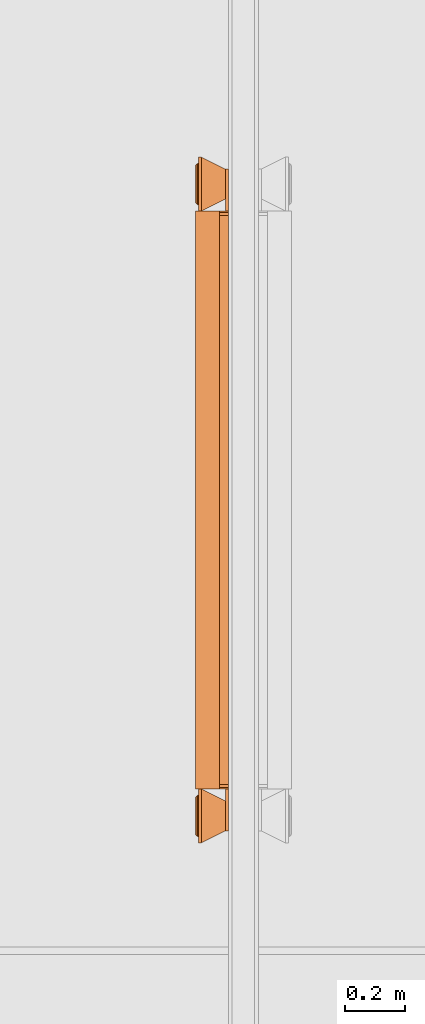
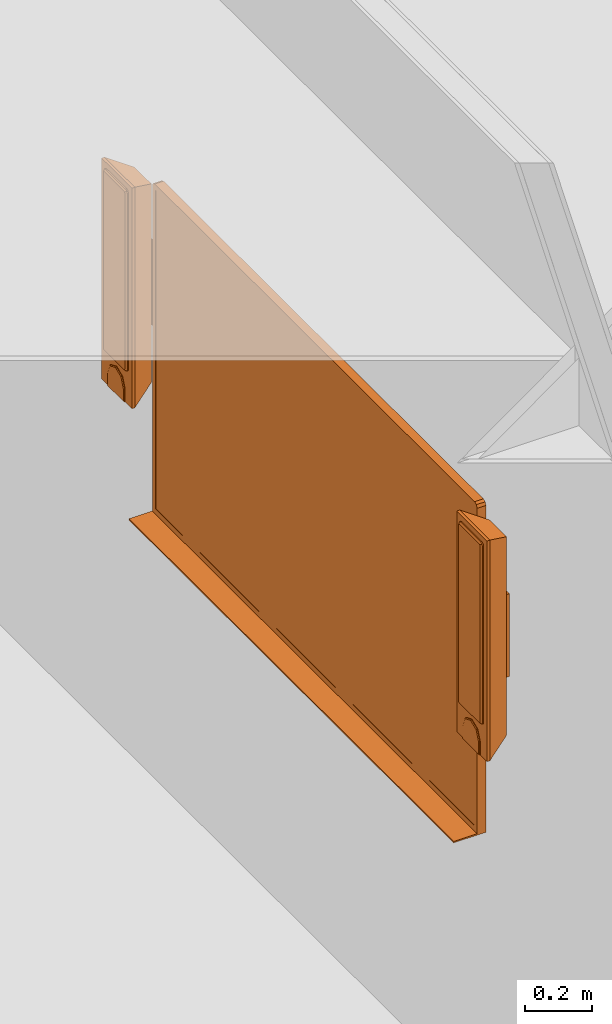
# One storey, part 105 of 167: 1 proxy.
"""IFC2X3 building model written with IfcOpenShell, lengths in millimetres."""

from ifc_helpers import new_model, entity, si_unit, converted_unit, derived_unit, money_unit, direction, frame, origin_with_axes, place, context, subcontext, project, spatial, faceted_brep, source, transform, mapped, type_object, type_shapes, element, save


model = new_model("IFC2X3")

# Units and contexts
model_context = context("Model", 3, precision=0.01, world=origin_with_axes(), true_north=direction((0.0, 1.0)))
plan_context = context("Plan", 3, precision=0.01, world=origin_with_axes(), true_north=direction((0.0, 1.0)))
body_context = subcontext(model_context, "Body", "Model", "MODEL_VIEW")
ifc_project = project(units=[si_unit("LENGTHUNIT", "METRE", prefix="MILLI"), si_unit("AREAUNIT", "SQUARE_METRE"), si_unit("VOLUMEUNIT", "CUBIC_METRE"), converted_unit("PLANEANGLEUNIT", "DEGREE", entity("IfcPlaneAngleMeasure", 0.0174532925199), si_unit("PLANEANGLEUNIT", "RADIAN"), dimensions=[0, 0, 0, 0, 0, 0, 0]), si_unit("SOLIDANGLEUNIT", "STERADIAN"), money_unit("EUR"), converted_unit("TIMEUNIT", "Year", entity("IfcTimeMeasure", 31556926.0), si_unit("TIMEUNIT", "SECOND"), dimensions=[0, 0, 1, 0, 0, 0, 0]), si_unit("MASSUNIT", "GRAM", prefix="KILO"), si_unit("THERMODYNAMICTEMPERATUREUNIT", "DEGREE_CELSIUS"), si_unit("LUMINOUSINTENSITYUNIT", "LUMEN"), si_unit("ENERGYUNIT", "JOULE", prefix="MEGA"), derived_unit("THERMALCONDUCTANCEUNIT", [(si_unit("POWERUNIT", "WATT"), 1), (si_unit("LENGTHUNIT", "METRE"), -1), (si_unit("THERMODYNAMICTEMPERATUREUNIT", "KELVIN"), -1)]), derived_unit("SPECIFICHEATCAPACITYUNIT", [(si_unit("ENERGYUNIT", "JOULE"), 1), (si_unit("MASSUNIT", "GRAM", prefix="KILO"), -1), (si_unit("THERMODYNAMICTEMPERATUREUNIT", "KELVIN"), -1)]), derived_unit("MASSDENSITYUNIT", [(si_unit("MASSUNIT", "GRAM", prefix="KILO"), 1), (si_unit("VOLUMEUNIT", "CUBIC_METRE"), -1)])], contexts=[model_context, plan_context])

# Site, building, storey
site_placement = place(None, origin_with_axes())
site = spatial("IfcSite", under=ifc_project, at=site_placement, Name="Site", CompositionType="ELEMENT")
building_placement = place(site_placement, origin_with_axes())
building = spatial("IfcBuilding", under=site, at=building_placement, Name="Naam gebouw", CompositionType="ELEMENT")
storey_placement = place(building_placement, origin_with_axes())
storey = spatial("IfcBuildingStorey", under=building, at=storey_placement, Name="Begane grond", CompositionType="ELEMENT", Elevation=0.0)

# Proxy
building_element_proxy_type = type_object("IfcBuildingElementProxyType", Name="Digitaal bord 24", PredefinedType="NOTDEFINED")
shared_shape = source(origin_with_axes(), body_context, "Body", "Brep", [
    faceted_brep([(0.0, 0.0, 1000.0), (0.0, -30.0, 1000.0), (-1930.0, -30.0, 1000.0), (-1930.0, 0.0, 1000.0), (0.0, 0.0, 2185.0), (0.0, -30.0, 2185.0), (-4.3933982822, -30.0, 2195.60660172), (-15.0, -30.0, 2200.0), (-1915.0, -30.0, 2200.0), (-1925.60660172, -30.0, 2195.60660172), (-1930.0, -30.0, 2185.0), (-20.0, -30.0, 1025.0), (-1910.0, -30.0, 1025.0), (-1910.0, -30.0, 2180.0), (-20.0, -30.0, 2180.0), (-1930.0, 0.0, 2185.0), (-1925.60660172, 0.0, 2195.60660172), (-1915.0, 0.0, 2200.0), (-15.0, 0.0, 2200.0), (-4.3933982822, 0.0, 2195.60660172), (-20.0, 0.0, 1025.0), (-20.0, 0.0, 2180.0), (-1910.0, 0.0, 2180.0), (-1910.0, 0.0, 1025.0)], [[[0, 1, 2, 3]], [[4, 5, 1, 0]], [[1, 5, 6, 7, 8, 9, 10, 2], [11, 12, 13, 14]], [[3, 2, 10, 15]], [[0, 3, 15, 16, 17, 18, 19, 4], [20, 21, 22, 23]], [[19, 6, 5, 4]], [[18, 7, 6, 19]], [[17, 8, 7, 18]], [[16, 9, 8, 17]], [[15, 10, 9, 16]], [[23, 12, 11, 20]], [[22, 13, 12, 23]], [[21, 14, 13, 22]], [[20, 11, 14, 21]]]),
    faceted_brep([(-20.0, 0.0, 1025.0), (-20.0, -29.0, 1025.0), (-1910.0, -29.0, 1025.0), (-1910.0, 0.0, 1025.0), (-20.0, 0.0, 2180.0), (-20.0, -29.0, 2180.0), (-1910.0, -29.0, 2180.0), (-1910.0, 0.0, 2180.0)], [[[0, 1, 2, 3]], [[4, 5, 1, 0]], [[1, 5, 6, 2]], [[3, 2, 6, 7]], [[0, 3, 7, 4]], [[7, 6, 5, 4]]]),
    faceted_brep([(-1930.0, -110.0, 1000.0), (-1930.0, -30.0, 1000.0), (0.0, -30.0, 1000.0), (0.0, -110.0, 1000.0), (-1930.0, -110.0, 1005.0), (-1930.0, -30.0, 1005.0), (0.0, -30.0, 1005.0), (0.0, -110.0, 1005.0)], [[[0, 1, 2, 3]], [[0, 4, 5, 1]], [[1, 5, 6, 2]], [[2, 6, 7, 3]], [[3, 7, 4, 0]], [[7, 6, 5, 4]]]),
    faceted_brep([(0.0, -10.0, 1650.0), (0.0, 0.0, 1650.0), (140.0, 0.0, 1650.0), (140.0, -10.0, 1650.0), (0.0, -10.0, 1950.0), (0.0, 0.0, 1950.0), (140.0, 0.0, 1950.0), (140.0, -10.0, 1950.0)], [[[0, 1, 2, 3]], [[0, 4, 5, 1]], [[1, 5, 6, 2]], [[2, 6, 7, 3]], [[3, 7, 4, 0]], [[7, 6, 5, 4]]]),
    faceted_brep([(0.0, -100.0, 2200.0), (0.0, -100.0, 1400.0), (180.0, -100.0, 1400.0), (180.0, -100.0, 2200.0), (-2.43782993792e-07, -90.0, 2200.00000039), (-2.43782993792e-07, -90.0, 1399.99999964), (180.00000039, -90.0, 1399.99999964), (180.00000039, -90.0, 2200.00000039), (39.9999997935, -9.99999992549, 2160.00000035), (39.9999997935, -9.99999992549, 1439.99999968), (140.000000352, -9.99999992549, 1439.99999968), (140.000000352, -9.99999992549, 2160.00000035)], [[[0, 1, 2, 3]], [[0, 4, 5, 1]], [[1, 5, 6, 2]], [[2, 6, 7, 3]], [[3, 7, 4, 0]], [[4, 8, 9, 5]], [[5, 9, 10, 6]], [[6, 10, 11, 7]], [[7, 11, 8, 4]], [[10, 9, 8, 11]]]),
    faceted_brep([(157.071067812, -100.0, 1522.92893219), (150.0, -100.0, 1520.0), (30.0, -100.0, 1520.0), (22.9289321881, -100.0, 1522.92893219), (20.0, -100.0, 1530.0), (20.0, -100.0, 2170.0), (22.9289321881, -100.0, 2177.07106781), (30.0, -100.0, 2180.0), (150.0, -100.0, 2180.0), (157.071067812, -100.0, 2177.07106781), (160.0, -100.0, 2170.0), (160.0, -100.0, 1530.0), (156.488467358, -103.826834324, 1523.51153264), (149.848586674, -103.826834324, 1520.76120427), (30.1514125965, -103.826834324, 1520.76120427), (23.5115328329, -103.826834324, 1523.51153262), (20.761204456, -103.826834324, 1530.15141333), (20.761204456, -103.826834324, 2169.84858696), (23.5115328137, -103.826834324, 2176.48846674), (30.1514125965, -103.826834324, 2179.2387951), (149.848586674, -103.826834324, 2179.2387951), (156.488467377, -103.826834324, 2176.48846672), (159.238795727, -103.826834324, 2169.84858696), (159.238795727, -103.826834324, 1530.15141333), (152.346331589, -109.238795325, 1527.65366841), (148.772080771, -109.238795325, 1526.17316539), (31.2279186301, -109.238795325, 1526.17316539), (27.6536686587, -109.238795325, 1527.65366826), (26.1731655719, -109.238795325, 1531.22791923), (26.1731655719, -109.238795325, 2168.77208092), (27.6536685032, -109.238795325, 2172.34633105), (31.2279186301, -109.238795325, 2173.82683398), (148.772080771, -109.238795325, 2173.82683398), (152.346331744, -109.238795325, 2172.34633089), (153.826834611, -109.238795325, 2168.77208092), (153.826834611, -109.238795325, 1531.22791923), (149.41740042, -109.999999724, 1530.58259958), (148.010876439, -109.999999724, 1529.99999833), (31.9891230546, -109.999999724, 1529.99999833), (30.5825998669, -109.999999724, 1530.58259933), (29.9999985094, -109.999999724, 1531.98912356), (29.9999985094, -109.999999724, 2168.0108765), (30.5825996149, -109.999999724, 2169.41739994), (31.9891230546, -109.999999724, 2170.00000104), (148.010876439, -109.999999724, 2170.00000104), (149.417400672, -109.999999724, 2169.41739969), (150.000001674, -109.999999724, 2168.0108765), (150.000001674, -109.999999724, 1531.98912356)], [[[0, 1, 2, 3, 4, 5, 6, 7, 8, 9, 10, 11]], [[0, 12, 13, 1]], [[1, 13, 14, 2]], [[2, 14, 15, 3]], [[3, 15, 16, 4]], [[4, 16, 17, 5]], [[5, 17, 18, 6]], [[6, 18, 19, 7]], [[7, 19, 20, 8]], [[8, 20, 21, 9]], [[9, 21, 22, 10]], [[10, 22, 23, 11]], [[11, 23, 12, 0]], [[12, 24, 25, 13]], [[13, 25, 26, 14]], [[14, 26, 27, 15]], [[15, 27, 28, 16]], [[16, 28, 29, 17]], [[17, 29, 30, 18]], [[18, 30, 31, 19]], [[19, 31, 32, 20]], [[20, 32, 33, 21]], [[21, 33, 34, 22]], [[22, 34, 35, 23]], [[23, 35, 24, 12]], [[24, 36, 37, 25]], [[25, 37, 38, 26]], [[26, 38, 39, 27]], [[27, 39, 40, 28]], [[28, 40, 41, 29]], [[29, 41, 42, 30]], [[30, 42, 43, 31]], [[31, 43, 44, 32]], [[32, 44, 45, 33]], [[33, 45, 46, 34]], [[34, 46, 47, 35]], [[35, 47, 36, 24]], [[45, 44, 43, 42, 41, 40, 39, 38, 37, 36, 47, 46]]]),
    faceted_brep([(40.0, -100.0, 1400.0), (40.0, -100.0, 1450.0), (54.6446609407, -100.0, 1485.35533906), (90.0, -100.0, 1500.0), (125.355339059, -100.0, 1485.35533906), (140.0, -100.0, 1450.0), (140.0, -100.0, 1400.0), (40.380602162, -101.913417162, 1400.38060194), (40.380602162, -101.913417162, 1449.92429384), (54.9359612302, -101.913417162, 1485.06403877), (89.9999996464, -101.913417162, 1499.58803917), (125.064038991, -101.913417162, 1485.06403877), (139.619398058, -101.913417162, 1449.92429384), (139.619398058, -101.913417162, 1400.38060194), (43.0865822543, -104.619397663, 1403.08658203), (43.0865822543, -104.619397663, 1449.38604093), (57.0070287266, -104.619397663, 1482.99297127), (89.99999966, -104.619397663, 1496.65910743), (122.9929715, -104.619397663, 1482.99297126), (136.913417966, -104.619397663, 1449.38604093), (136.913417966, -104.619397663, 1403.08658203), (45.0000010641, -105.000000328, 1405.00000084), (45.0000010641, -105.000000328, 1449.00543826), (58.4714960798, -105.000000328, 1481.52850392), (89.9999996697, -105.000000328, 1494.58803784), (121.528504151, -105.000000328, 1481.52850389), (134.999999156, -105.000000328, 1449.00543826), (134.999999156, -105.000000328, 1405.00000084)], [[[0, 1, 2, 3, 4, 5, 6]], [[0, 7, 8, 1]], [[1, 8, 9, 2]], [[2, 9, 10, 3]], [[3, 10, 11, 4]], [[4, 11, 12, 5]], [[5, 12, 13, 6]], [[6, 13, 7, 0]], [[7, 14, 15, 8]], [[8, 15, 16, 9]], [[9, 16, 17, 10]], [[10, 17, 18, 11]], [[11, 18, 19, 12]], [[12, 19, 20, 13]], [[13, 20, 14, 7]], [[14, 21, 22, 15]], [[15, 22, 23, 16]], [[16, 23, 24, 17]], [[17, 24, 25, 18]], [[18, 25, 26, 19]], [[19, 26, 27, 20]], [[20, 27, 21, 14]], [[25, 24, 23, 22, 21, 27, 26]]]),
    faceted_brep([(-1930.0, -10.0, 1650.0), (-2070.0, -10.0, 1650.0), (-2070.0, 0.0, 1650.0), (-1930.0, 0.0, 1650.0), (-1930.0, -10.0, 1950.0), (-2070.0, -10.0, 1950.0), (-2070.0, 0.0, 1950.0), (-1930.0, 0.0, 1950.0)], [[[0, 1, 2, 3]], [[1, 0, 4, 5]], [[2, 1, 5, 6]], [[3, 2, 6, 7]], [[0, 3, 7, 4]], [[5, 4, 7, 6]]]),
    faceted_brep([(-1930.0, -100.0, 2200.0), (-2110.0, -100.0, 2200.0), (-2110.0, -100.0, 1400.0), (-1930.0, -100.0, 1400.0), (-1929.99999976, -90.0, 2200.00000039), (-2110.00000039, -90.0, 2200.00000039), (-2110.00000039, -90.0, 1399.99999964), (-1929.99999976, -90.0, 1399.99999964), (-1969.99999979, -9.99999992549, 2160.00000035), (-2070.00000035, -9.99999992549, 2160.00000035), (-2070.00000035, -9.99999992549, 1439.99999968), (-1969.99999979, -9.99999992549, 1439.99999968)], [[[0, 1, 2, 3]], [[1, 0, 4, 5]], [[2, 1, 5, 6]], [[3, 2, 6, 7]], [[0, 3, 7, 4]], [[5, 4, 8, 9]], [[6, 5, 9, 10]], [[7, 6, 10, 11]], [[4, 7, 11, 8]], [[10, 9, 8, 11]]]),
    faceted_brep([(-2087.07106781, -100.0, 1522.92893219), (-2090.0, -100.0, 1530.0), (-2090.0, -100.0, 2170.0), (-2087.07106781, -100.0, 2177.07106781), (-2080.0, -100.0, 2180.0), (-1960.0, -100.0, 2180.0), (-1952.92893219, -100.0, 2177.07106781), (-1950.0, -100.0, 2170.0), (-1950.0, -100.0, 1530.0), (-1952.92893219, -100.0, 1522.92893219), (-1960.0, -100.0, 1520.0), (-2080.0, -100.0, 1520.0), (-2086.48846736, -103.826834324, 1523.51153264), (-2089.23879573, -103.826834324, 1530.15141333), (-2089.23879573, -103.826834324, 2169.84858696), (-2086.48846738, -103.826834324, 2176.48846672), (-2079.84858667, -103.826834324, 2179.2387951), (-1960.1514126, -103.826834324, 2179.2387951), (-1953.51153281, -103.826834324, 2176.48846674), (-1950.76120446, -103.826834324, 2169.84858696), (-1950.76120446, -103.826834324, 1530.15141333), (-1953.51153283, -103.826834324, 1523.51153262), (-1960.1514126, -103.826834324, 1520.76120427), (-2079.84858667, -103.826834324, 1520.76120427), (-2082.34633159, -109.238795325, 1527.65366841), (-2083.82683461, -109.238795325, 1531.22791923), (-2083.82683461, -109.238795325, 2168.77208092), (-2082.34633174, -109.238795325, 2172.34633089), (-2078.77208077, -109.238795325, 2173.82683398), (-1961.22791863, -109.238795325, 2173.82683398), (-1957.6536685, -109.238795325, 2172.34633105), (-1956.17316557, -109.238795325, 2168.77208092), (-1956.17316557, -109.238795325, 1531.22791923), (-1957.65366866, -109.238795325, 1527.65366826), (-1961.22791863, -109.238795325, 1526.17316539), (-2078.77208077, -109.238795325, 1526.17316539), (-2079.41740042, -109.999999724, 1530.58259958), (-2080.00000167, -109.999999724, 1531.98912356), (-2080.00000167, -109.999999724, 2168.0108765), (-2079.41740067, -109.999999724, 2169.41739969), (-2078.01087644, -109.999999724, 2170.00000104), (-1961.98912305, -109.999999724, 2170.00000104), (-1960.58259961, -109.999999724, 2169.41739994), (-1959.99999851, -109.999999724, 2168.0108765), (-1959.99999851, -109.999999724, 1531.98912356), (-1960.58259987, -109.999999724, 1530.58259933), (-1961.98912305, -109.999999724, 1529.99999833), (-2078.01087644, -109.999999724, 1529.99999833)], [[[0, 1, 2, 3, 4, 5, 6, 7, 8, 9, 10, 11]], [[1, 0, 12, 13]], [[2, 1, 13, 14]], [[3, 2, 14, 15]], [[4, 3, 15, 16]], [[5, 4, 16, 17]], [[6, 5, 17, 18]], [[7, 6, 18, 19]], [[8, 7, 19, 20]], [[9, 8, 20, 21]], [[10, 9, 21, 22]], [[11, 10, 22, 23]], [[0, 11, 23, 12]], [[13, 12, 24, 25]], [[14, 13, 25, 26]], [[15, 14, 26, 27]], [[16, 15, 27, 28]], [[17, 16, 28, 29]], [[18, 17, 29, 30]], [[19, 18, 30, 31]], [[20, 19, 31, 32]], [[21, 20, 32, 33]], [[22, 21, 33, 34]], [[23, 22, 34, 35]], [[12, 23, 35, 24]], [[25, 24, 36, 37]], [[26, 25, 37, 38]], [[27, 26, 38, 39]], [[28, 27, 39, 40]], [[29, 28, 40, 41]], [[30, 29, 41, 42]], [[31, 30, 42, 43]], [[32, 31, 43, 44]], [[33, 32, 44, 45]], [[34, 33, 45, 46]], [[35, 34, 46, 47]], [[24, 35, 47, 36]], [[39, 38, 37, 36, 47, 46, 45, 44, 43, 42, 41, 40]]]),
    faceted_brep([(-1970.0, -100.0, 1400.0), (-2070.0, -100.0, 1400.0), (-2070.0, -100.0, 1450.0), (-2055.35533906, -100.0, 1485.35533906), (-2020.0, -100.0, 1500.0), (-1984.64466094, -100.0, 1485.35533906), (-1970.0, -100.0, 1450.0), (-1970.38060216, -101.913417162, 1400.38060194), (-2069.61939806, -101.913417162, 1400.38060194), (-2069.61939806, -101.913417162, 1449.92429384), (-2055.06403899, -101.913417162, 1485.06403877), (-2019.99999965, -101.913417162, 1499.58803917), (-1984.93596123, -101.913417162, 1485.06403877), (-1970.38060216, -101.913417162, 1449.92429384), (-1973.08658225, -104.619397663, 1403.08658203), (-2066.91341797, -104.619397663, 1403.08658203), (-2066.91341797, -104.619397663, 1449.38604093), (-2052.9929715, -104.619397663, 1482.99297126), (-2019.99999966, -104.619397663, 1496.65910743), (-1987.00702873, -104.619397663, 1482.99297127), (-1973.08658225, -104.619397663, 1449.38604093), (-1975.00000106, -105.000000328, 1405.00000084), (-2064.99999916, -105.000000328, 1405.00000084), (-2064.99999916, -105.000000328, 1449.00543826), (-2051.52850415, -105.000000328, 1481.52850389), (-2019.99999967, -105.000000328, 1494.58803784), (-1988.47149608, -105.000000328, 1481.52850392), (-1975.00000106, -105.000000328, 1449.00543826)], [[[0, 1, 2, 3, 4, 5, 6]], [[1, 0, 7, 8]], [[2, 1, 8, 9]], [[3, 2, 9, 10]], [[4, 3, 10, 11]], [[5, 4, 11, 12]], [[6, 5, 12, 13]], [[0, 6, 13, 7]], [[8, 7, 14, 15]], [[9, 8, 15, 16]], [[10, 9, 16, 17]], [[11, 10, 17, 18]], [[12, 11, 18, 19]], [[13, 12, 19, 20]], [[7, 13, 20, 14]], [[15, 14, 21, 22]], [[16, 15, 22, 23]], [[17, 16, 23, 24]], [[18, 17, 24, 25]], [[19, 18, 25, 26]], [[20, 19, 26, 27]], [[14, 20, 27, 21]], [[24, 23, 22, 21, 27, 26, 25]]]),
])
type_shapes(building_element_proxy_type, [shared_shape])
proxy_placement = place(storey_placement, frame((14350.0, 45728.0, 0.0), z_axis=(0.0, 0.0, 1.0), x_axis=(0.0, -1.0, 0.0)))
element("IfcBuildingElementProxy", 1, at=proxy_placement, inside=storey, type_object=building_element_proxy_type, Name="__object-x", context=body_context, shape_type="MappedRepresentation", body=[
    mapped(shared_shape, transform((0.0, 0.0, 0.0))),
])

save(model, "model.ifc")
